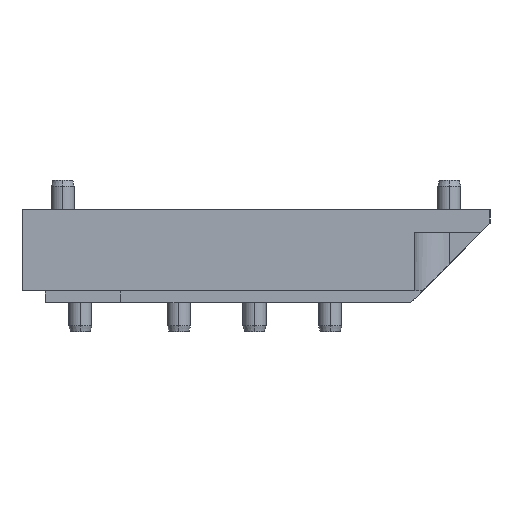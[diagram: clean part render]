
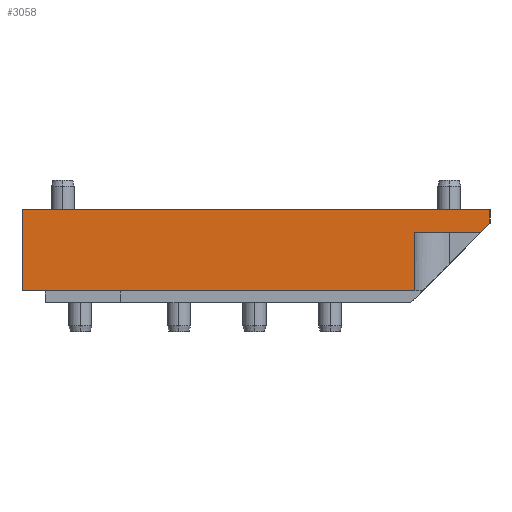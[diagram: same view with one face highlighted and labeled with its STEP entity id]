
A CAD part, left-side view. The second image highlights one B-rep face of the part: STEP entity #3058.
In plain terms, the highlighted planar face has unit normal (-1, 0, 0).
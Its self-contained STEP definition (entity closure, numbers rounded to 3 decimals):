
#1740=CARTESIAN_POINT('Vertex',(-35.5,-20.25,8.)) ;
#1743=CARTESIAN_POINT('Line Origine',(-35.5,-20.25,7.407)) ;
#1747=CARTESIAN_POINT('Vertex',(-35.5,-20.25,6.815)) ;
#1885=CARTESIAN_POINT('Vertex',(-35.5,-13.75,6.)) ;
#1908=CARTESIAN_POINT('Vertex',(-35.5,-19.435,6.)) ;
#1911=CARTESIAN_POINT('Line Origine',(-35.5,-16.593,6.)) ;
#2514=CARTESIAN_POINT('Vertex',(-35.5,20.,8.)) ;
#2519=CARTESIAN_POINT('Line Origine',(-35.5,-0.125,8.)) ;
#2923=CARTESIAN_POINT('Vertex',(-35.5,-13.75,1.)) ;
#2926=CARTESIAN_POINT('Line Origine',(-35.5,-13.75,3.5)) ;
#2978=CARTESIAN_POINT('Line Origine',(-35.5,-19.843,6.407)) ;
#3032=CARTESIAN_POINT('Axis2P3D Location',(-35.5,-20.25,0.)) ;
#3037=CARTESIAN_POINT('Line Origine',(-35.5,3.125,1.)) ;
#3041=CARTESIAN_POINT('Vertex',(-35.5,20.,1.)) ;
#3044=CARTESIAN_POINT('Line Origine',(-35.5,20.,4.5)) ;
#1745=VECTOR('Line Direction',#1744,1.) ;
#1913=VECTOR('Line Direction',#1912,1.) ;
#2521=VECTOR('Line Direction',#2520,1.) ;
#2928=VECTOR('Line Direction',#2927,1.) ;
#2980=VECTOR('Line Direction',#2979,1.) ;
#3039=VECTOR('Line Direction',#3038,1.) ;
#3046=VECTOR('Line Direction',#3045,1.) ;
#1744=DIRECTION('Vector Direction',(0.,0.,1.)) ;
#1912=DIRECTION('Vector Direction',(0.,1.,0.)) ;
#2520=DIRECTION('Vector Direction',(0.,1.,0.)) ;
#2927=DIRECTION('Vector Direction',(0.,0.,1.)) ;
#2979=DIRECTION('Vector Direction',(0.,0.707,-0.707)) ;
#3033=DIRECTION('Axis2P3D Direction',(1.,0.,0.)) ;
#3034=DIRECTION('Axis2P3D XDirection',(0.,1.,0.)) ;
#3038=DIRECTION('Vector Direction',(0.,1.,0.)) ;
#3045=DIRECTION('Vector Direction',(0.,0.,1.)) ;
#3035=AXIS2_PLACEMENT_3D('Plane Axis2P3D',#3032,#3033,#3034) ;
#1746=LINE('Line',#1743,#1745) ;
#1914=LINE('Line',#1911,#1913) ;
#2522=LINE('Line',#2519,#2521) ;
#2929=LINE('Line',#2926,#2928) ;
#2981=LINE('Line',#2978,#2980) ;
#3040=LINE('Line',#3037,#3039) ;
#3047=LINE('Line',#3044,#3046) ;
#3036=PLANE('',#3035) ;
#1749=EDGE_CURVE('',#1748,#1741,#1746,.T.) ;
#1915=EDGE_CURVE('',#1909,#1886,#1914,.T.) ;
#2523=EDGE_CURVE('',#1741,#2515,#2522,.T.) ;
#2930=EDGE_CURVE('',#2924,#1886,#2929,.T.) ;
#2982=EDGE_CURVE('',#1748,#1909,#2981,.T.) ;
#3043=EDGE_CURVE('',#2924,#3042,#3040,.T.) ;
#3048=EDGE_CURVE('',#3042,#2515,#3047,.T.) ;
#3050=ORIENTED_EDGE('',*,*,#3043,.F.) ;
#3051=ORIENTED_EDGE('',*,*,#2930,.T.) ;
#3052=ORIENTED_EDGE('',*,*,#1915,.F.) ;
#3053=ORIENTED_EDGE('',*,*,#2982,.F.) ;
#3054=ORIENTED_EDGE('',*,*,#1749,.T.) ;
#3055=ORIENTED_EDGE('',*,*,#2523,.T.) ;
#3056=ORIENTED_EDGE('',*,*,#3048,.F.) ;
#3049=EDGE_LOOP('',(#3050,#3051,#3052,#3053,#3054,#3055,#3056)) ;
#1741=VERTEX_POINT('',#1740) ;
#1748=VERTEX_POINT('',#1747) ;
#1886=VERTEX_POINT('',#1885) ;
#1909=VERTEX_POINT('',#1908) ;
#2515=VERTEX_POINT('',#2514) ;
#2924=VERTEX_POINT('',#2923) ;
#3042=VERTEX_POINT('',#3041) ;
#3058=ADVANCED_FACE('\X2\FF8AFF9FFF70FF82\X0\ \X2\FF8EFF9EFF83FF9EFF68FF70\X0\',(#3057),#3036,.F.) ;
#3057=FACE_OUTER_BOUND('',#3049,.T.) ;
